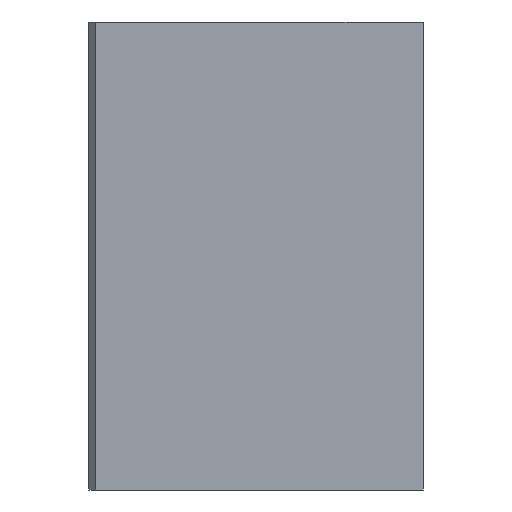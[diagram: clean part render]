
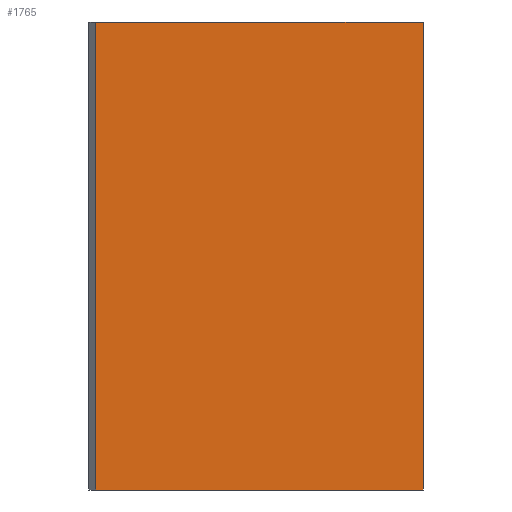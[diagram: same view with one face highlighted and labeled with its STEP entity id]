
A CAD part, front view. The second image highlights one B-rep face of the part: STEP entity #1765.
In plain terms, the highlighted planar face has unit normal (0, -1, 0).
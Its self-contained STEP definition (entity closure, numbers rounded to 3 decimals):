
#164 = LINE ( 'NONE', #9004, #2313 ) ;
#651 = AXIS2_PLACEMENT_3D ( 'NONE', #3503, #10746, #10103 ) ;
#1561 = CARTESIAN_POINT ( 'NONE',  ( -80.486, 12.836, 17.5 ) ) ;
#1765 = ADVANCED_FACE ( 'NONE', ( #10188 ), #6999, .F. ) ;
#1941 = DIRECTION ( 'NONE',  ( 0., 0., 1. ) ) ;
#2313 = VECTOR ( 'NONE', #11521, 1000. ) ;
#2866 = CARTESIAN_POINT ( 'NONE',  ( -80.486, 12.836, 0. ) ) ;
#2889 = LINE ( 'NONE', #4838, #5135 ) ;
#2959 = ORIENTED_EDGE ( 'NONE', *, *, #9209, .F. ) ;
#3098 = CARTESIAN_POINT ( 'NONE',  ( -55.986, 12.836, -17.5 ) ) ;
#3278 = ORIENTED_EDGE ( 'NONE', *, *, #9851, .F. ) ;
#3329 = VECTOR ( 'NONE', #10964, 1000. ) ;
#3401 = ORIENTED_EDGE ( 'NONE', *, *, #5344, .F. ) ;
#3503 = CARTESIAN_POINT ( 'NONE',  ( -80.486, 12.836, -17.5 ) ) ;
#3837 = VERTEX_POINT ( 'NONE', #8785 ) ;
#3883 = EDGE_LOOP ( 'NONE', ( #3278, #3401, #5413, #2959 ) ) ;
#4027 = VERTEX_POINT ( 'NONE', #3098 ) ;
#4630 = VERTEX_POINT ( 'NONE', #1561 ) ;
#4838 = CARTESIAN_POINT ( 'NONE',  ( -55.986, 12.836, 0. ) ) ;
#4999 = DIRECTION ( 'NONE',  ( -1., 0., 0. ) ) ;
#5135 = VECTOR ( 'NONE', #1941, 1000. ) ;
#5247 = EDGE_CURVE ( 'NONE', #4027, #3837, #2889, .T. ) ;
#5344 = EDGE_CURVE ( 'NONE', #4027, #6237, #11424, .T. ) ;
#5413 = ORIENTED_EDGE ( 'NONE', *, *, #5247, .T. ) ;
#5885 = CARTESIAN_POINT ( 'NONE',  ( -68.236, 12.836, -17.5 ) ) ;
#6237 = VERTEX_POINT ( 'NONE', #6884 ) ;
#6884 = CARTESIAN_POINT ( 'NONE',  ( -80.486, 12.836, -17.5 ) ) ;
#6914 = VECTOR ( 'NONE', #4999, 1000. ) ;
#6999 = PLANE ( 'NONE',  #651 ) ;
#8290 = LINE ( 'NONE', #2866, #3329 ) ;
#8785 = CARTESIAN_POINT ( 'NONE',  ( -55.986, 12.836, 17.5 ) ) ;
#9004 = CARTESIAN_POINT ( 'NONE',  ( -68.486, 12.836, 17.5 ) ) ;
#9209 = EDGE_CURVE ( 'NONE', #4630, #3837, #164, .T. ) ;
#9851 = EDGE_CURVE ( 'NONE', #6237, #4630, #8290, .T. ) ;
#10103 = DIRECTION ( 'NONE',  ( 0., 0., 1. ) ) ;
#10188 = FACE_OUTER_BOUND ( 'NONE', #3883, .T. ) ;
#10746 = DIRECTION ( 'NONE',  ( 0., 1., 0. ) ) ;
#10964 = DIRECTION ( 'NONE',  ( 0., 0., 1. ) ) ;
#11424 = LINE ( 'NONE', #5885, #6914 ) ;
#11521 = DIRECTION ( 'NONE',  ( 1., 0., 0. ) ) ;
